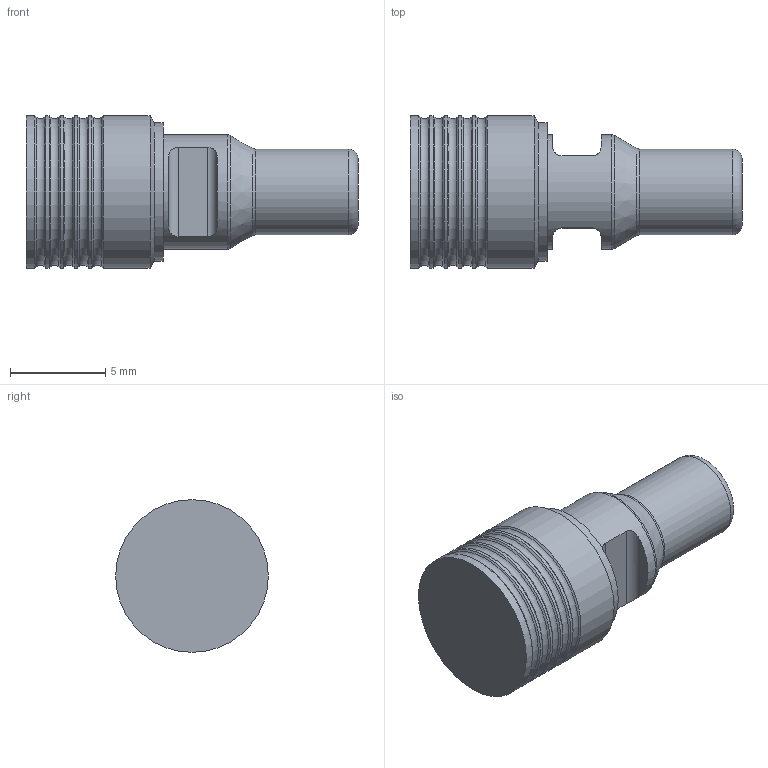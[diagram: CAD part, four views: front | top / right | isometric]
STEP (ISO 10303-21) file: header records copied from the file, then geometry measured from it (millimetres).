
FILE_DESCRIPTION(/* description */ ('LEE CHEK VALVE, 855 LC2 SERIES, FORWARD'),/* implementation_level */ '2;1');
FILE_NAME(/* name */ '\\ABSOLUTE\SmWork\Vernon\CLCF8010XXXS.stp',/* time_stamp */ '2021-03-23T14:13:09-04:00',/* author */ ('VernonJ'),/* organization */ (''),/* preprocessor_version */ 'ST-DEVELOPER v18',/* originating_system */ 'Autodesk Inventor 2020',/* authorisation */ '');
FILE_SCHEMA (('AUTOMOTIVE_DESIGN { 1 0 10303 214 3 1 1 }'));
Length unit declared in the file: millimetre
Products named in the file (1): CLCF8010XXXS
Bounding box: 17.4 x 8 x 8 mm (x, y, z)
Volume: 542.2 mm3; surface area: 446.9 mm2
Topology: 1 solids, 1 shells, 42 faces, 133 edges, 95 vertices
Faces by surface type: cylinder 13, cone 12, plane 9, torus 8
Full cylindrical faces by diameter (mm): 4.5 x1, 6 x1, 7.25 x1, 8 x6
Entity records: 1657 total; most frequent: CARTESIAN_POINT 343, DIRECTION 302, ORIENTED_EDGE 266, AXIS2_PLACEMENT_3D 134, EDGE_CURVE 133, VERTEX_POINT 95, CIRCLE 91, EDGE_LOOP 44
